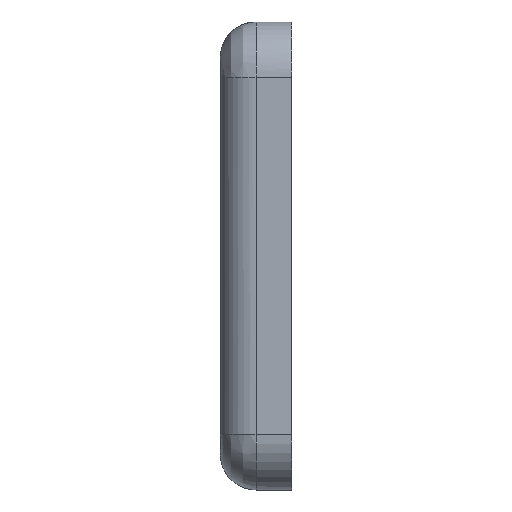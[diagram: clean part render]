
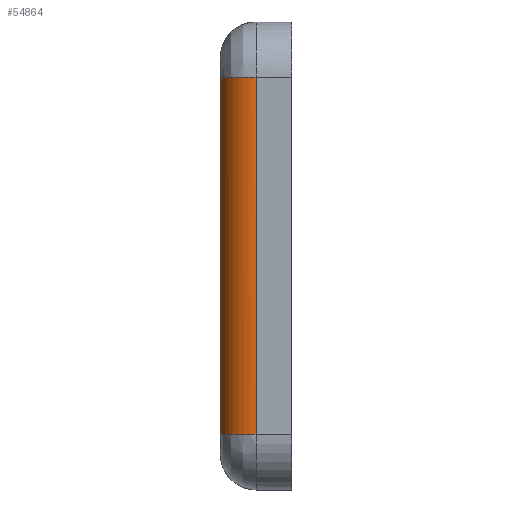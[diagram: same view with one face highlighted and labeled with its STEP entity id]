
A CAD part, left-side view. The second image highlights one B-rep face of the part: STEP entity #54864.
In plain terms, the highlighted cylindrical face has radius 25.4 mm (diameter 50.8 mm), a partial arc.
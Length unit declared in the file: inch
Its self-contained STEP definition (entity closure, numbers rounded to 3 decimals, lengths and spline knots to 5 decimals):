
#1027 = ORIENTED_EDGE ( 'NONE', *, *, #20412, .T. ) ;
#1943 = EDGE_CURVE ( 'NONE', #14583, #39838, #17244, .T. ) ;
#3808 = CARTESIAN_POINT ( 'NONE',  ( -8.32434, 1.99797, 4.99008 ) ) ;
#4143 = CARTESIAN_POINT ( 'NONE',  ( -8.7873, 1.84893, 4.99812 ) ) ;
#4468 = CARTESIAN_POINT ( 'NONE',  ( -9.20612, 1.32122, 5.00535 ) ) ;
#11396 = CARTESIAN_POINT ( 'NONE',  ( -8.38971, 1.9919, 4.99122 ) ) ;
#11722 = CARTESIAN_POINT ( 'NONE',  ( -8.86951, 1.79438, 4.99955 ) ) ;
#12054 = CARTESIAN_POINT ( 'NONE',  ( -9.23304, 1.22676, 5.00582 ) ) ;
#13615 = DIRECTION ( 'NONE',  ( 1., 0., 0. ) ) ;
#14583 = VERTEX_POINT ( 'NONE', #51429 ) ;
#15822 = AXIS2_PLACEMENT_3D ( 'NONE', #36188, #28656, #13615 ) ;
#17244 = LINE ( 'NONE', #64656, #54745 ) ;
#18621 = CARTESIAN_POINT ( 'NONE',  ( -8.27495, 2., 4.98921 ) ) ;
#18935 = CARTESIAN_POINT ( 'NONE',  ( -8.47064, 1.97739, 4.99263 ) ) ;
#19257 = CARTESIAN_POINT ( 'NONE',  ( -8.98893, 1.68381, 5.00161 ) ) ;
#19581 = CARTESIAN_POINT ( 'NONE',  ( -9.25854, 1.06603, 5.00626 ) ) ;
#20412 = EDGE_CURVE ( 'NONE', #60126, #39838, #76985, .T. ) ;
#22968 = ORIENTED_EDGE ( 'NONE', *, *, #40780, .F. ) ;
#23170 = B_SPLINE_CURVE_WITH_KNOTS ( 'NONE', 3,
 ( #71146, #18621, #48721, #3808, #56287, #11396, #63863, #18935, #71473, #26460, #79005, #33998, #86521, #41523, #94112, #49053, #4143, #56603, #11722, #64181, #19257, #71778, #26771, #79326, #34314, #86841, #41845, #94438, #49375, #4468, #56938, #12054, #64511, #19581, #72099 ),
 .UNSPECIFIED., .F., .F.,
 ( 4, 2, 2, 2, 2, 2, 1, 2, 2, 2, 2, 2, 2, 2, 2, 2, 2, 4 ),
 ( -0.00017, 0.00108, 0.00233, 0.00483, 0.00608, 0.00733, 0.00983, 0.01234, 0.01359, 0.01484, 0.01984, 0.02234, 0.02359, 0.02484, 0.02985, 0.03235, 0.03485, 0.03985 ),
 .UNSPECIFIED. ) ;
#26460 = CARTESIAN_POINT ( 'NONE',  ( -8.51865, 1.96572, 4.99347 ) ) ;
#26771 = CARTESIAN_POINT ( 'NONE',  ( -9.04226, 1.62134, 5.00253 ) ) ;
#28656 = DIRECTION ( 'NONE',  ( 0., 0., 1. ) ) ;
#33998 = CARTESIAN_POINT ( 'NONE',  ( -8.58134, 1.94703, 4.99456 ) ) ;
#34314 = CARTESIAN_POINT ( 'NONE',  ( -9.07195, 1.58193, 5.00304 ) ) ;
#36188 = CARTESIAN_POINT ( 'NONE',  ( -8.25854, 1., 6.10323 ) ) ;
#39838 = VERTEX_POINT ( 'NONE', #40348 ) ;
#40348 = CARTESIAN_POINT ( 'NONE',  ( -9.25853, 1., -5.00279 ) ) ;
#40780 = EDGE_CURVE ( 'NONE', #77499, #14583, #23170, .T. ) ;
#41523 = CARTESIAN_POINT ( 'NONE',  ( -8.70156, 1.89711, 4.99664 ) ) ;
#41845 = CARTESIAN_POINT ( 'NONE',  ( -9.12666, 1.50063, 5.00398 ) ) ;
#44620 = DIRECTION ( 'NONE',  ( 0., 0., 1. ) ) ;
#48721 = CARTESIAN_POINT ( 'NONE',  ( -8.29149, 1.99959, 4.9895 ) ) ;
#49053 = CARTESIAN_POINT ( 'NONE',  ( -8.75908, 1.86587, 4.99764 ) ) ;
#49375 = CARTESIAN_POINT ( 'NONE',  ( -9.19495, 1.35243, 5.00516 ) ) ;
#50635 = ORIENTED_EDGE ( 'NONE', *, *, #1943, .F. ) ;
#51429 = CARTESIAN_POINT ( 'NONE',  ( -9.25854, 1., 5.00626 ) ) ;
#54745 = VECTOR ( 'NONE', #62043, 39.37008 ) ;
#54864 = ADVANCED_FACE ( 'NONE', ( #77618 ), #75242, .T. ) ;
#56287 = CARTESIAN_POINT ( 'NONE',  ( -8.34072, 1.99675, 4.99036 ) ) ;
#56515 = LINE ( 'NONE', #70359, #94188 ) ;
#56603 = CARTESIAN_POINT ( 'NONE',  ( -8.80126, 1.84007, 4.99837 ) ) ;
#56938 = CARTESIAN_POINT ( 'NONE',  ( -9.22513, 1.25843, 5.00568 ) ) ;
#60126 = VERTEX_POINT ( 'NONE', #70641 ) ;
#62043 = DIRECTION ( 'NONE',  ( 0., 0., -1. ) ) ;
#63863 = CARTESIAN_POINT ( 'NONE',  ( -8.42219, 1.98707, 4.99179 ) ) ;
#64181 = CARTESIAN_POINT ( 'NONE',  ( -8.9198, 1.75298, 5.00041 ) ) ;
#64511 = CARTESIAN_POINT ( 'NONE',  ( -9.25207, 1.13096, 5.00615 ) ) ;
#64656 = CARTESIAN_POINT ( 'NONE',  ( -9.25854, 1., 5.00626 ) ) ;
#69562 = EDGE_CURVE ( 'NONE', #60126, #77499, #56515, .T. ) ;
#70359 = CARTESIAN_POINT ( 'NONE',  ( -8.25854, 2., 6.10323 ) ) ;
#70641 = CARTESIAN_POINT ( 'NONE',  ( -8.25853, 2., -5.00279 ) ) ;
#71146 = CARTESIAN_POINT ( 'NONE',  ( -8.25854, 2., 4.98892 ) ) ;
#71473 = CARTESIAN_POINT ( 'NONE',  ( -8.48676, 1.97375, 4.99291 ) ) ;
#71778 = CARTESIAN_POINT ( 'NONE',  ( -9.01092, 1.65956, 5.00199 ) ) ;
#72099 = CARTESIAN_POINT ( 'NONE',  ( -9.25854, 1., 5.00626 ) ) ;
#75242 = CYLINDRICAL_SURFACE ( 'NONE', #15822, 1. ) ;
#76985 = CIRCLE ( 'NONE', #87350, 1. ) ;
#77499 = VERTEX_POINT ( 'NONE', #78124 ) ;
#77618 = FACE_OUTER_BOUND ( 'NONE', #85958, .T. ) ;
#77915 = DIRECTION ( 'NONE',  ( 0., 0., 1. ) ) ;
#78124 = CARTESIAN_POINT ( 'NONE',  ( -8.25854, 2., 4.98892 ) ) ;
#79005 = CARTESIAN_POINT ( 'NONE',  ( -8.53444, 1.96133, 4.99374 ) ) ;
#79326 = CARTESIAN_POINT ( 'NONE',  ( -9.05241, 1.60832, 5.0027 ) ) ;
#85958 = EDGE_LOOP ( 'NONE', ( #1027, #50635, #22968, #89062 ) ) ;
#86521 = CARTESIAN_POINT ( 'NONE',  ( -8.64265, 1.925, 4.99562 ) ) ;
#86841 = CARTESIAN_POINT ( 'NONE',  ( -9.08136, 1.56855, 5.0032 ) ) ;
#87350 = AXIS2_PLACEMENT_3D ( 'NONE', #89642, #44620, #97196 ) ;
#89062 = ORIENTED_EDGE ( 'NONE', *, *, #69562, .F. ) ;
#89642 = CARTESIAN_POINT ( 'NONE',  ( -8.25853, 1., -5.00279 ) ) ;
#94112 = CARTESIAN_POINT ( 'NONE',  ( -8.74482, 1.87396, 4.99739 ) ) ;
#94188 = VECTOR ( 'NONE', #77915, 39.37008 ) ;
#94438 = CARTESIAN_POINT ( 'NONE',  ( -9.15735, 1.44322, 5.00451 ) ) ;
#97196 = DIRECTION ( 'NONE',  ( 1., 0., 0. ) ) ;
